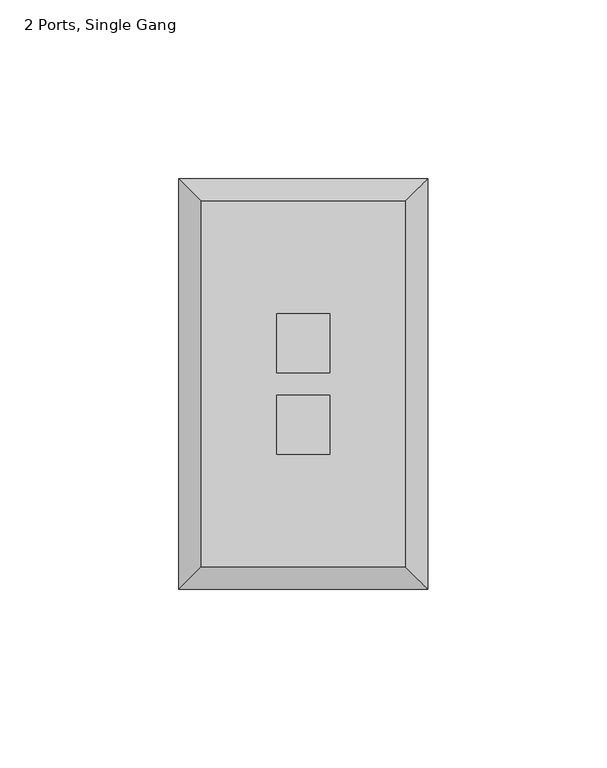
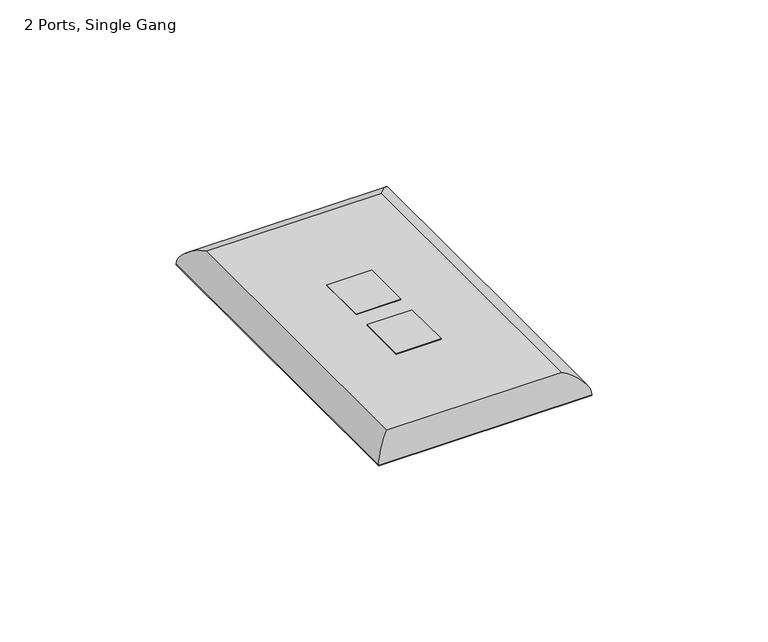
"""IFC4 building model written with IfcOpenShell, lengths in millimetres: electric appliance geometry, Data_Device-Work_Area-Leviton-QuickPort-Wallplate : 2 Ports, Single Gang."""

from ifc_helpers import new_model, si_unit, frame, origin, origin_with_axes, place, context, project, spatial, polyline, ellipse_curve, outline, extrude, source, transform, mapped, element, save
from ifc_brep_helpers import plane_surface, cylinder_surface, advanced_brep


def electric_appliance_2_ports_single_gang_735cf79b(model_context):
    return source(origin(), model_context, "Body", "SolidModel", [
        extrude(outline(polyline([(-15.6591, 27.813), (-15.6591, 11.303), (-30.3911, 11.303), (-30.3911, 27.813), (-15.6591, 27.813)])), origin_with_axes(), (0.0, 0.0, 1.0), 6.35),
        extrude(outline(polyline([(-15.6591, -11.43), (-30.3911, -11.43), (-30.3911, 5.08), (-15.6591, 5.08), (-15.6591, -11.43)])), origin_with_axes(), (0.0, 0.0, 1.0), 6.35),
        advanced_brep(
        [(5.5499, -42.9895, 6.35), (5.5499, 59.3725, 6.35), (-51.6001, 59.3725, 6.35), (-51.6001, -42.9895, 6.35), (-30.3911, 27.813, 6.35), (-15.6591, 27.813, 6.35), (-15.6591, 11.303, 6.35), (-30.3911, 11.303, 6.35), (-30.3911, 5.08, 6.35), (-15.6591, 5.08, 6.35), (-15.6591, -11.43, 6.35), (-30.3911, -11.43, 6.35), (11.8999, 65.7225, 0.0), (11.8999, -49.3395, 0.0), (-57.9501, -49.3395, 0.0), (-57.9501, 65.7225, 0.0), (-15.6591, 27.813, 0.0), (-30.3911, 27.813, 0.0), (-30.3911, 11.303, 0.0), (-15.6591, 11.303, 0.0), (-15.6591, 5.08, 0.0), (-30.3911, 5.08, 0.0), (-30.3911, -11.43, 0.0), (-15.6591, -11.43, 0.0), (-57.9501, 65.7225, 0.254), (11.8999, 65.7225, 0.254), (-57.9501, -49.3395, 0.254), (11.8999, -49.3395, 0.254)],
        [
            (0, 1),
            (1, 2),
            (2, 3),
            (3, 0),
            (4, 5),
            (5, 6),
            (6, 7),
            (7, 4),
            (8, 9),
            (9, 10),
            (10, 11),
            (11, 8),
            (12, 13),
            (13, 14),
            (14, 15),
            (15, 12),
            (16, 17),
            (17, 18),
            (18, 19),
            (19, 16),
            (20, 21),
            (21, 22),
            (22, 23),
            (23, 20),
            (15, 24),
            (24, 25),
            (25, 12),
            (14, 26),
            (26, 24),
            (13, 27),
            (27, 26),
            (25, 27),
            (4, 17),
            (16, 5),
            (7, 18),
            (6, 19),
            (8, 21),
            (20, 9),
            (11, 22),
            (10, 23),
            (0, 27, ellipse_curve(frame((5.5499, -42.9895, -0.0052917), z_axis=(0.7071067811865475, 0.7071067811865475, 0.0), x_axis=(0.7071067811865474, -0.7071067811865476, 0.0)), 8.9877397, 6.3552917)),
            (25, 1, ellipse_curve(frame((5.5499, 59.3725, -0.0052917), z_axis=(0.7071067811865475, -0.7071067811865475, 0.0), x_axis=(-0.7071067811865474, -0.7071067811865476, 0.0)), 8.9877397, 6.3552917)),
            (3, 26, ellipse_curve(frame((-51.6001, -42.9895, -0.0052917), z_axis=(0.7071067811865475, -0.7071067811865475, 0.0), x_axis=(-0.7071067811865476, -0.7071067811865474, 0.0)), 8.9877397, 6.3552917)),
            (2, 24, ellipse_curve(frame((-51.6001, 59.3725, -0.0052917), z_axis=(-0.7071067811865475, -0.7071067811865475, 0.0), x_axis=(-0.7071067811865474, 0.7071067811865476, 0.0)), 8.9877397, 6.3552917)),
        ],
        [
            plane_surface(frame((-57.9501, 65.7225, 6.35), z_axis=(0.0, 0.0, 1.0), x_axis=(-1.0, 0.0, 0.0))),
            plane_surface(frame((-57.9501, 65.7225, 0.0), z_axis=(0.0, 0.0, -1.0), x_axis=(1.0, 0.0, 0.0))),
            plane_surface(frame((11.8999, 65.7225, 6.35), z_axis=(0.0, 1.0, 0.0), x_axis=(0.0, 0.0, -1.0))),
            plane_surface(frame((-57.9501, 65.7225, 6.35), z_axis=(-1.0, 0.0, 0.0), x_axis=(0.0, 0.0, -1.0))),
            plane_surface(frame((-57.9501, -49.3395, 6.35), z_axis=(0.0, -1.0, 0.0), x_axis=(0.0, 0.0, -1.0))),
            plane_surface(frame((11.8999, -49.3395, 6.35), z_axis=(1.0, 0.0, 0.0), x_axis=(0.0, 0.0, -1.0))),
            plane_surface(frame((-15.6591, 27.813, 6.35), z_axis=(0.0, -1.0, 0.0), x_axis=(0.0, 0.0, -1.0))),
            plane_surface(frame((-30.3911, 27.813, 6.35), z_axis=(1.0, 0.0, 0.0), x_axis=(0.0, 0.0, -1.0))),
            plane_surface(frame((-30.3911, 11.303, 6.35), z_axis=(0.0, 1.0, 0.0), x_axis=(0.0, 0.0, -1.0))),
            plane_surface(frame((-15.6591, 11.303, 6.35), z_axis=(-1.0, 0.0, 0.0), x_axis=(0.0, 0.0, -1.0))),
            plane_surface(frame((-15.6591, 5.08, 6.35), z_axis=(0.0, -1.0, 0.0), x_axis=(0.0, 0.0, -1.0))),
            plane_surface(frame((-30.3911, 5.08, 6.35), z_axis=(1.0, 0.0, 0.0), x_axis=(0.0, 0.0, -1.0))),
            plane_surface(frame((-30.3911, -11.43, 6.35), z_axis=(0.0, 1.0, 0.0), x_axis=(0.0, 0.0, -1.0))),
            plane_surface(frame((-15.6591, -11.43, 6.35), z_axis=(-1.0, 0.0, 0.0), x_axis=(0.0, 0.0, -1.0))),
            cylinder_surface(frame((5.5499, 65.7225, -0.0052917), z_axis=(0.0, -1.0, 0.0), x_axis=(1.0, 0.0, 0.0)), 6.3552917),
            cylinder_surface(frame((11.8999, -42.9895, -0.0052917), z_axis=(-1.0, 0.0, 0.0), x_axis=(0.0, -1.0, 0.0)), 6.3552917),
            cylinder_surface(frame((-51.6001, -49.3395, -0.0052917), z_axis=(0.0, 1.0, 0.0), x_axis=(-1.0, 0.0, 0.0)), 6.3552917),
            cylinder_surface(frame((-57.9501, 59.3725, -0.0052917), z_axis=(1.0, 0.0, 0.0), x_axis=(0.0, 1.0, 0.0)), 6.3552917),
        ],
        [
            (0, [[1, 2, 3, 4], [5, 6, 7, 8], [9, 10, 11, 12]]),
            (1, [[13, 14, 15, 16], [17, 18, 19, 20], [21, 22, 23, 24]]),
            (2, [[-16, 25, 26, 27]]),
            (3, [[-15, 28, 29, -25]]),
            (4, [[-14, 30, 31, -28]]),
            (5, [[-13, -27, 32, -30]]),
            (6, [[33, -17, 34, -5]]),
            (7, [[-33, -8, 35, -18]]),
            (8, [[-35, -7, 36, -19]]),
            (9, [[-34, -20, -36, -6]]),
            (10, [[37, -21, 38, -9]]),
            (11, [[-37, -12, 39, -22]]),
            (12, [[-39, -11, 40, -23]]),
            (13, [[-38, -24, -40, -10]]),
            (14, [[41, -32, 42, -1]]),
            (15, [[-41, -4, 43, -31]]),
            (16, [[-43, -3, 44, -29]]),
            (17, [[-42, -26, -44, -2]]),
        ],
    ),
        extrude(outline(polyline([(11.6459, 65.4685), (11.6459, -49.0855), (-57.6961, -49.0855), (-57.6961, 65.4685), (11.6459, 65.4685)]), holes=[polyline([(-15.6591, 27.813), (-30.3911, 27.813), (-30.3911, 11.303), (-15.6591, 11.303), (-15.6591, 27.813)]), polyline([(-15.6591, 5.08), (-30.3911, 5.08), (-30.3911, -11.43), (-15.6591, -11.43), (-15.6591, 5.08)])]), origin_with_axes(), (0.0, 0.0, 1.0), 0.254),
    ])


if __name__ == "__main__":
    model = new_model("IFC4")
    model_context = context("Model", 3, world=origin())
    ifc_project = project(units=[si_unit("LENGTHUNIT", "METRE", prefix="MILLI")], contexts=[model_context])
    site = spatial("IfcSite", under=ifc_project)
    building = spatial("IfcBuilding", under=site)
    placement = place(None, origin())
    electric_appliance_2_ports_single_gang_shape = electric_appliance_2_ports_single_gang_735cf79b(model_context)
    element("IfcElectricAppliance", 1, ObjectType="Data_Device-Work_Area-Leviton-QuickPort-Wallplate : 2 Ports, Single Gang", at=placement, inside=building, context=model_context, shape_type="MappedRepresentation", body=[
        mapped(electric_appliance_2_ports_single_gang_shape, transform((0.0, 0.0, 0.0), x_axis=(1.0, 0.0, 0.0), y_axis=(0.0, 1.0, 0.0), z_axis=(0.0, 0.0, 1.0))),
    ])
    save(model, "model.ifc")
